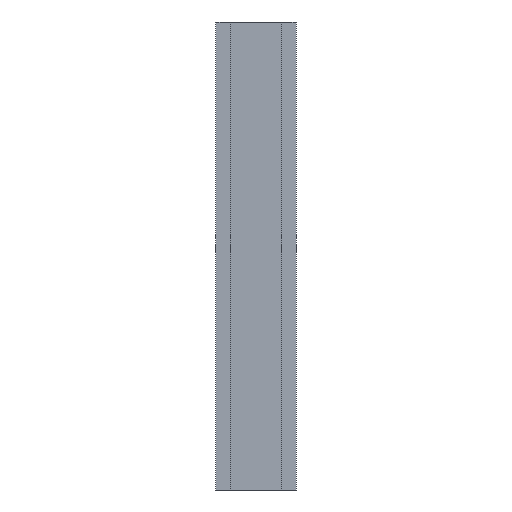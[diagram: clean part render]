
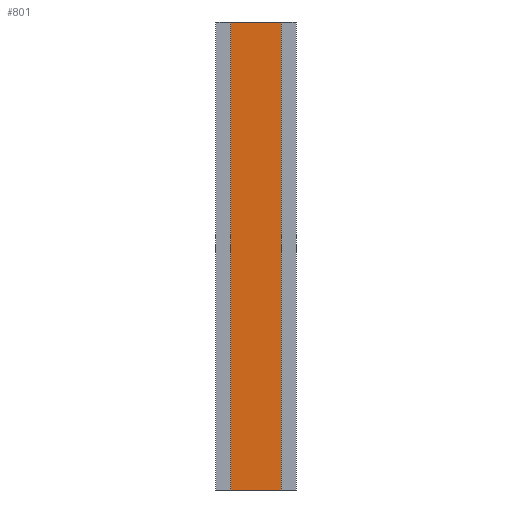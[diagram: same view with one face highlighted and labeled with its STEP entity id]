
A CAD part, front view. The second image highlights one B-rep face of the part: STEP entity #801.
In plain terms, the highlighted planar face has unit normal (0, -1, 0).
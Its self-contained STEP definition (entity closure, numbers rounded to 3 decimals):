
#69 = CARTESIAN_POINT ( 'NONE',  ( 80., 23.5, 0. ) ) ;
#106 = CARTESIAN_POINT ( 'NONE',  ( 80., 23.5, 500. ) ) ;
#131 = CARTESIAN_POINT ( 'NONE',  ( 6., 23.5, 0. ) ) ;
#145 = VERTEX_POINT ( 'NONE', #131 ) ;
#170 = VERTEX_POINT ( 'NONE', #106 ) ;
#207 = VERTEX_POINT ( 'NONE', #69 ) ;
#277 = VERTEX_POINT ( 'NONE', #2534 ) ;
#312 = EDGE_CURVE ( 'NONE', #277, #170, #1331, .T. ) ;
#481 = LINE ( 'NONE', #871, #483 ) ;
#483 = VECTOR ( 'NONE', #872, 1000. ) ;
#563 = LINE ( 'NONE', #981, #564 ) ;
#564 = VECTOR ( 'NONE', #982, 1000. ) ;
#565 = LINE ( 'NONE', #983, #566 ) ;
#566 = VECTOR ( 'NONE', #984, 1000. ) ;
#801 = ADVANCED_FACE ( 'NONE', ( #1472 ), #2903, .F. ) ;
#871 = CARTESIAN_POINT ( 'NONE',  ( 6., 23.5, 0. ) ) ;
#872 = DIRECTION ( 'NONE',  ( 1., 0., 0. ) ) ;
#981 = CARTESIAN_POINT ( 'NONE',  ( 6., 23.5, 500. ) ) ;
#982 = DIRECTION ( 'NONE',  ( 0., 0., -1. ) ) ;
#983 = CARTESIAN_POINT ( 'NONE',  ( 80., 23.5, 500. ) ) ;
#984 = DIRECTION ( 'NONE',  ( 0., 0., -1. ) ) ;
#1331 = LINE ( 'NONE', #2569, #1333 ) ;
#1333 = VECTOR ( 'NONE', #2570, 1000. ) ;
#1472 = FACE_OUTER_BOUND ( 'NONE', #2341, .T. ) ;
#1676 = EDGE_CURVE ( 'NONE', #145, #207, #481, .T. ) ;
#1724 = EDGE_CURVE ( 'NONE', #277, #145, #563, .T. ) ;
#1725 = EDGE_CURVE ( 'NONE', #170, #207, #565, .T. ) ;
#1865 = AXIS2_PLACEMENT_3D ( 'NONE', #2904, #2905, #2906 ) ;
#2341 = EDGE_LOOP ( 'NONE', ( #2437, #2438, #2439, #2440 ) ) ;
#2437 = ORIENTED_EDGE ( 'NONE', *, *, #1676, .T. ) ;
#2438 = ORIENTED_EDGE ( 'NONE', *, *, #1725, .F. ) ;
#2439 = ORIENTED_EDGE ( 'NONE', *, *, #312, .F. ) ;
#2440 = ORIENTED_EDGE ( 'NONE', *, *, #1724, .T. ) ;
#2534 = CARTESIAN_POINT ( 'NONE',  ( 6., 23.5, 500. ) ) ;
#2569 = CARTESIAN_POINT ( 'NONE',  ( 6., 23.5, 500. ) ) ;
#2570 = DIRECTION ( 'NONE',  ( 1., 0., 0. ) ) ;
#2903 = PLANE ( 'NONE',  #1865 ) ;
#2904 = CARTESIAN_POINT ( 'NONE',  ( 6., 23.5, 500. ) ) ;
#2905 = DIRECTION ( 'NONE',  ( 0., 1., 0. ) ) ;
#2906 = DIRECTION ( 'NONE',  ( -1., 0., 0. ) ) ;
